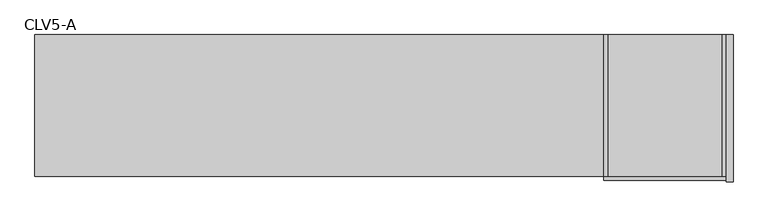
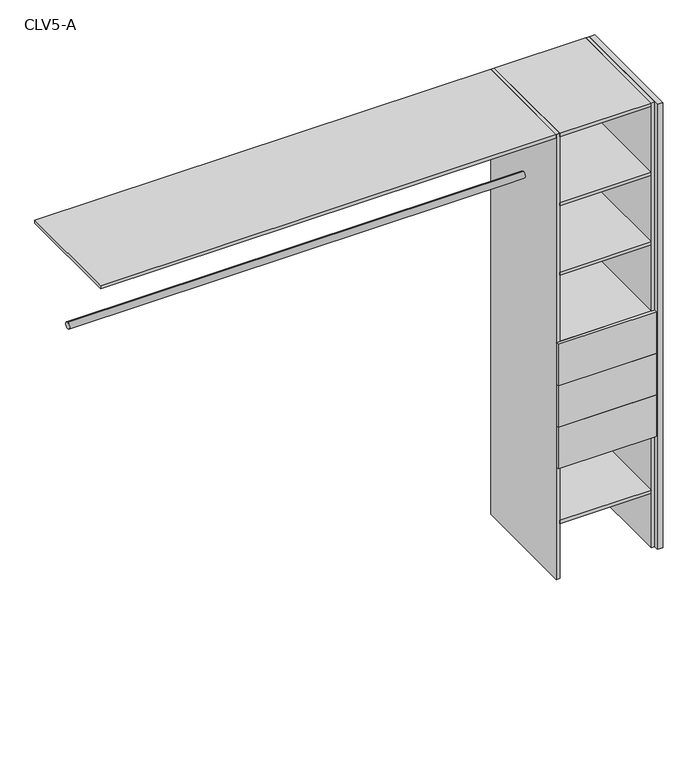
"""IFC4 building model written with IfcOpenShell, lengths in millimetres: furniture geometry, Closet 1estantes-1tubos_lateral estante : CLV5-A."""

import ifcopenshell
import ifcopenshell.guid

model = None  # the IFC model being written
_history = None  # IfcOwnerHistory: only IFC2X3 demands one
_inside = {}  # id of a spatial element -> (the spatial element, [elements in it])
_under = {}  # id of a project, library or spatial element -> (it, [spatial elements below it])
_declared = {}  # id of a project -> (the project, [libraries it declares])
_typed = {}  # id of a type object -> (the type object, [elements of that type])
_made_of = {}  # id of a material, layer set ... -> (it, [elements and type objects made of it])


def new_model(schema):
    """Start an empty IFC model of exactly this schema.

    Asked for "IFC4X3", IfcOpenShell would pick the latest addendum, in which some entities
    have other attributes; the version numbers below select the first issue.
    IFC2X3 requires an IfcOwnerHistory on every rooted entity: one is made here for all.
    """
    global model, _history
    if schema == "IFC4X3":
        model = ifcopenshell.file(schema_version=(4, 3, 0, 0))
    else:
        model = ifcopenshell.file(schema=schema)
    _inside.clear()
    _under.clear()
    _declared.clear()
    _typed.clear()
    _made_of.clear()
    _history = None
    if model.schema == "IFC2X3":
        org = make("IfcOrganization", Name="unknown")
        user = make(
            "IfcPersonAndOrganization",
            ThePerson=make("IfcPerson", FamilyName="unknown"),
            TheOrganization=org,
        )
        app = make(
            "IfcApplication",
            ApplicationDeveloper=org,
            Version="unknown",
            ApplicationFullName="unknown",
            ApplicationIdentifier="unknown",
        )
        _history = make(
            "IfcOwnerHistory",
            OwningUser=user,
            OwningApplication=app,
            ChangeAction="ADDED",
            CreationDate=0,
        )
    return model


def make(cls, **values):
    """One entity of the class cls with the attributes given. An attribute that is None is left unset."""
    return model.create_entity(
        cls, **{name: value for name, value in values.items() if value is not None}
    )


def rooted(cls, **values):
    """An entity with a GlobalId (a new one), such as an element, a storey or a relation."""
    return make(cls, GlobalId=ifcopenshell.guid.new(), OwnerHistory=_history, **values)


def si_unit(unit_type, name, prefix=None):
    """IfcSIUnit, for example si_unit("LENGTHUNIT", "METRE", prefix="MILLI")."""
    return make("IfcSIUnit", UnitType=unit_type, Prefix=prefix, Name=name)


def assignment(units):
    """IfcUnitAssignment: the units of a project."""
    return None if units is None else make("IfcUnitAssignment", Units=units)


def point(xyz):
    """IfcCartesianPoint."""
    return None if xyz is None else make("IfcCartesianPoint", Coordinates=xyz)


def direction(xyz):
    """IfcDirection."""
    return None if xyz is None else make("IfcDirection", DirectionRatios=xyz)


def frame(location, z_axis=None, x_axis=None):
    """IfcAxis2Placement3D, a coordinate frame: its origin and axes. An axis left out is left unset."""
    return make(
        "IfcAxis2Placement3D",
        Location=point(location),
        Axis=direction(z_axis),
        RefDirection=direction(x_axis),
    )


def frame_2d(location, x_axis=None):
    """IfcAxis2Placement2D, a coordinate frame in the plane: its origin and x axis."""
    return make(
        "IfcAxis2Placement2D", Location=point(location), RefDirection=direction(x_axis)
    )


def origin():
    """The frame at (0, 0, 0) with its axes left unset."""
    return frame((0.0, 0.0, 0.0))


def origin_with_axes():
    """The frame at (0, 0, 0) with the z axis (0, 0, 1) and the x axis (1, 0, 0) written out."""
    return frame((0.0, 0.0, 0.0), z_axis=(0.0, 0.0, 1.0), x_axis=(1.0, 0.0, 0.0))


def place(relative_to, where):
    """IfcLocalPlacement: puts the frame where relative to a parent placement (None: the world)."""
    return make(
        "IfcLocalPlacement", PlacementRelTo=relative_to, RelativePlacement=where
    )


def context(
    kind, dimensions, precision=None, world=None, true_north=None, identifier=None
):
    """IfcGeometricRepresentationContext, for example the 3D "Model" context."""
    return make(
        "IfcGeometricRepresentationContext",
        ContextIdentifier=identifier,
        ContextType=kind,
        CoordinateSpaceDimension=dimensions,
        Precision=precision,
        WorldCoordinateSystem=world,
        TrueNorth=true_north,
    )


def project(units=None, contexts=None):
    """IfcProject with its units and contexts."""
    return rooted(
        "IfcProject",
        Name="project",
        RepresentationContexts=contexts,
        UnitsInContext=assignment(units),
    )


def spatial(cls, under=None, at=None, **own):
    """A site, building, storey or space (cls), placed at a placement, below another one or the project."""
    s = rooted(cls, ObjectPlacement=at, **own)
    if under is not None:
        _under.setdefault(under.id(), (under, []))[1].append(s)
    return s


def polyline(points):
    """IfcPolyline through the points."""
    return make("IfcPolyline", Points=[point(p) for p in points])


def circle_curve(where, radius):
    """IfcCircle in the frame where."""
    return make("IfcCircle", Position=where, Radius=radius)


def trimmed(basis, trim1, trim2, sense, master):
    """IfcTrimmedCurve: the piece of a basis curve between two trims."""
    return make(
        "IfcTrimmedCurve",
        BasisCurve=basis,
        Trim1=trim1,
        Trim2=trim2,
        SenseAgreement=sense,
        MasterRepresentation=master,
    )


def segment(curve, same_sense, transition):
    """IfcCompositeCurveSegment."""
    return make(
        "IfcCompositeCurveSegment",
        Transition=transition,
        SameSense=same_sense,
        ParentCurve=curve,
    )


def composite_curve(segments, self_intersect=None):
    """IfcCompositeCurve: segments joined end to end."""
    return make("IfcCompositeCurve", Segments=segments, SelfIntersect=self_intersect)


def outline(outer, holes=None, kind="AREA"):
    """IfcArbitraryClosedProfileDef: a profile drawn as a closed curve; with holes, ...WithVoids."""
    if holes is None:
        return make("IfcArbitraryClosedProfileDef", ProfileType=kind, OuterCurve=outer)
    return make(
        "IfcArbitraryProfileDefWithVoids",
        ProfileType=kind,
        OuterCurve=outer,
        InnerCurves=holes,
    )


def extrude(swept, where, along, depth):
    """IfcExtrudedAreaSolid: the profile swept, set in the frame where, extruded along a direction by depth."""
    return make(
        "IfcExtrudedAreaSolid",
        SweptArea=swept,
        Position=where,
        ExtrudedDirection=direction(along),
        Depth=depth,
    )


def shape(context_of_items, identifier, shape_type, items):
    """IfcShapeRepresentation: the items that make up one representation, for example the "Body"."""
    return make(
        "IfcShapeRepresentation",
        ContextOfItems=context_of_items,
        RepresentationIdentifier=identifier,
        RepresentationType=shape_type,
        Items=items,
    )


def source(mapping_origin, context_of_items, identifier, shape_type, items):
    """IfcRepresentationMap: a shape defined once, which mapped items show again and again."""
    return make(
        "IfcRepresentationMap",
        MappingOrigin=mapping_origin,
        MappedRepresentation=shape(context_of_items, identifier, shape_type, items),
    )


def transform(
    local_origin,
    x_axis=None,
    y_axis=None,
    z_axis=None,
    scale=None,
    scale2=None,
    scale3=None,
    uniform=True,
):
    """IfcCartesianTransformationOperator3D, or its non-uniform kind. x_axis, y_axis, z_axis: its Axis1, 2, 3."""
    if uniform:
        return make(
            "IfcCartesianTransformationOperator3D",
            Axis1=direction(x_axis),
            Axis2=direction(y_axis),
            LocalOrigin=point(local_origin),
            Scale=scale,
            Axis3=direction(z_axis),
        )
    return make(
        "IfcCartesianTransformationOperator3DnonUniform",
        Axis1=direction(x_axis),
        Axis2=direction(y_axis),
        LocalOrigin=point(local_origin),
        Scale=scale,
        Axis3=direction(z_axis),
        Scale2=scale2,
        Scale3=scale3,
    )


def mapped(mapping_source, mapping_target):
    """IfcMappedItem: shows the shape of a source again, moved by a transform."""
    return make(
        "IfcMappedItem", MappingSource=mapping_source, MappingTarget=mapping_target
    )


def made_of(thing, what):
    """Note that an element or type object is made of a material, layer set ...; save() writes the relation."""
    if what is not None:
        _made_of.setdefault(what.id(), (what, []))[1].append(thing)
    return thing


def element(
    cls,
    number,
    at=None,
    inside=None,
    cuts=None,
    type_object=None,
    material=None,
    context=None,
    identifier="Body",
    shape_type=None,
    held_by="IfcProductDefinitionShape",
    body=None,
    shapes=None,
    **own,
):
    """One element of the class cls, such as IfcWall. Its Tag is "e" and its number.

    at: its placement. inside: the storey or other place that contains it. cuts: it is an
    opening in that element (IfcRelVoidsElement). A single representation is given by context,
    identifier, shape_type and body (its items); several are given by shapes. held_by: the class
    of the entity that holds the representations. save() writes the other relations.
    """
    e = rooted(cls, Tag="e%d" % number, ObjectPlacement=at, **own)
    if body is not None:
        shapes = [shape(context, identifier, shape_type, body)]
    if shapes is not None:
        e.Representation = make(held_by, Representations=shapes)
    if inside is not None:
        _inside.setdefault(inside.id(), (inside, []))[1].append(e)
    if cuts is not None:
        rooted(
            "IfcRelVoidsElement", RelatingBuildingElement=cuts, RelatedOpeningElement=e
        )
    if type_object is not None:
        _typed.setdefault(type_object.id(), (type_object, []))[1].append(e)
    return made_of(e, material)


def aggregate(whole, parts):
    """IfcRelAggregates: a whole, such as a stair, and the parts it consists of."""
    return rooted("IfcRelAggregates", RelatingObject=whole, RelatedObjects=parts)


def save(model, path):
    """Write the relations noted so far, then the file.

    IfcRelAggregates (storeys below a building ...), IfcRelContainedInSpatialStructure (elements
    in a storey), IfcRelDefinesByType, IfcRelAssociatesMaterial and IfcRelDeclares: one each for
    every whole, place, type object, material and project.
    """
    for whole, parts in _under.values():
        aggregate(whole, parts)
    for where, things in _inside.values():
        rooted(
            "IfcRelContainedInSpatialStructure",
            RelatedElements=things,
            RelatingStructure=where,
        )
    for kind, things in _typed.values():
        rooted("IfcRelDefinesByType", RelatedObjects=things, RelatingType=kind)
    for what, things in _made_of.values():
        rooted("IfcRelAssociatesMaterial", RelatedObjects=things, RelatingMaterial=what)
    for by, libraries in _declared.values():
        rooted("IfcRelDeclares", RelatingContext=by, RelatedDefinitions=libraries)
    model.write(path)


def clv5_a_722d1e37(model_context):
    return source(origin(), model_context, "Body", "SweptSolid", [
        extrude(outline(polyline([(250.0, 60.0), (225.0, 60.0), (225.0, 600.0), (250.0, 600.0), (250.0, 60.0)])), origin_with_axes(), (0.0, 0.0, 1.0), 2150.0),
        extrude(outline(polyline([(225.0, 80.0), (210.0, 80.0), (210.0, 600.0), (225.0, 600.0), (225.0, 80.0)])), origin_with_axes(), (0.0, 0.0, 1.0), 2150.0),
        extrude(outline(polyline([(-210.0, 80.0), (-225.0, 80.0), (-225.0, 600.0), (-210.0, 600.0), (-210.0, 80.0)])), origin_with_axes(), (0.0, 0.0, 1.0), 2150.0),
        extrude(outline(polyline([(225.0, 80.0), (225.0, 65.0), (-225.0, 65.0), (-225.0, 80.0), (225.0, 80.0)])), frame((0.0, 0.0, 945.0), z_axis=(0.0, 0.0, 1.0), x_axis=(1.0, 0.0, 0.0)), (0.0, 0.0, 1.0), 200.0),
        extrude(outline(polyline([(225.0, 80.0), (225.0, 65.0), (-225.0, 65.0), (-225.0, 80.0), (225.0, 80.0)])), frame((0.0, 0.0, 745.0), z_axis=(0.0, 0.0, 1.0), x_axis=(1.0, 0.0, 0.0)), (0.0, 0.0, 1.0), 200.0),
        extrude(outline(polyline([(225.0, 80.0), (225.0, 65.0), (-225.0, 65.0), (-225.0, 80.0), (225.0, 80.0)])), frame((0.0, 0.0, 545.0), z_axis=(0.0, 0.0, 1.0), x_axis=(1.0, 0.0, 0.0)), (0.0, 0.0, 1.0), 200.0),
        extrude(outline(polyline([(210.0, 80.0), (-210.0, 80.0), (-210.0, 600.0), (210.0, 600.0), (210.0, 80.0)])), frame((0.0, 0.0, 1130.0), z_axis=(0.0, 0.0, 1.0), x_axis=(1.0, 0.0, 0.0)), (0.0, 0.0, 1.0), 15.0),
        extrude(outline(composite_curve([segment(trimmed(circle_curve(frame_2d((340.0, 1800.0)), 15.0), [point((340.0, 1815.0))], [point((340.0, 1785.0))], False, "CARTESIAN"), True, "CONTINUOUS"), segment(trimmed(circle_curve(frame_2d((340.0, 1800.0)), 15.0), [point((340.0, 1785.0))], [point((340.0, 1815.0))], False, "CARTESIAN"), True, "CONTINUOUS")], self_intersect=False)), frame((-2310.0, 0.0, 0.0), z_axis=(1.0, 0.0, 0.0), x_axis=(0.0, 1.0, 0.0)), (0.0, 0.0, 1.0), 2085.0),
        extrude(outline(composite_curve([segment(trimmed(circle_curve(frame_2d((340.0, 1800.0)), 15.0), [point((340.0, 1815.0))], [point((340.0, 1785.0))], False, "CARTESIAN"), True, "CONTINUOUS"), segment(trimmed(circle_curve(frame_2d((340.0, 1800.0)), 15.0), [point((340.0, 1785.0))], [point((340.0, 1815.0))], False, "CARTESIAN"), True, "CONTINUOUS")], self_intersect=False)), frame((-2310.0, 0.0, 0.0), z_axis=(1.0, 0.0, 0.0), x_axis=(0.0, 1.0, 0.0)), (0.0, 0.0, 1.0), 2085.0),
        extrude(outline(polyline([(210.0, 80.0), (-210.0, 80.0), (-210.0, 600.0), (210.0, 600.0), (210.0, 80.0)])), frame((0.0, 0.0, 265.0), z_axis=(0.0, 0.0, 1.0), x_axis=(1.0, 0.0, 0.0)), (0.0, 0.0, 1.0), 15.0),
        extrude(outline(polyline([(210.0, 80.0), (-210.0, 80.0), (-210.0, 600.0), (210.0, 600.0), (210.0, 80.0)])), frame((0.0, 0.0, 545.0), z_axis=(0.0, 0.0, 1.0), x_axis=(1.0, 0.0, 0.0)), (0.0, 0.0, 1.0), 15.0),
        extrude(outline(polyline([(210.0, 80.0), (-210.0, 80.0), (-210.0, 600.0), (210.0, 600.0), (210.0, 80.0)])), frame((0.0, 0.0, 1465.0), z_axis=(0.0, 0.0, 1.0), x_axis=(1.0, 0.0, 0.0)), (0.0, 0.0, 1.0), 15.0),
        extrude(outline(polyline([(210.0, 80.0), (-210.0, 80.0), (-210.0, 600.0), (210.0, 600.0), (210.0, 80.0)])), frame((0.0, 0.0, 1800.0), z_axis=(0.0, 0.0, 1.0), x_axis=(1.0, 0.0, 0.0)), (0.0, 0.0, 1.0), 15.0),
        extrude(outline(polyline([(-210.0, 80.0), (-2310.0, 80.0), (-2310.0, 600.0), (-210.0, 600.0), (-210.0, 80.0)])), frame((0.0, 0.0, 2135.0), z_axis=(0.0, 0.0, 1.0), x_axis=(1.0, 0.0, 0.0)), (0.0, 0.0, 1.0), 15.0),
        extrude(outline(polyline([(210.0, 80.0), (-210.0, 80.0), (-210.0, 600.0), (210.0, 600.0), (210.0, 80.0)])), frame((0.0, 0.0, 2135.0), z_axis=(0.0, 0.0, 1.0), x_axis=(1.0, 0.0, 0.0)), (0.0, 0.0, 1.0), 15.0),
    ])


if __name__ == "__main__":
    model = new_model("IFC4")
    model_context = context("Model", 3, world=origin())
    ifc_project = project(units=[si_unit("LENGTHUNIT", "METRE", prefix="MILLI")], contexts=[model_context])
    site = spatial("IfcSite", under=ifc_project)
    building = spatial("IfcBuilding", under=site)
    placement = place(None, origin())
    clv5_a_shape = clv5_a_722d1e37(model_context)
    element("IfcFurniture", 1, ObjectType="Closet 1estantes-1tubos_lateral estante : CLV5-A", at=placement, inside=building, context=model_context, shape_type="MappedRepresentation", body=[
        mapped(clv5_a_shape, transform((0.0, 0.0, 0.0), x_axis=(1.0, 0.0, 0.0), y_axis=(0.0, 1.0, 0.0), z_axis=(0.0, 0.0, 1.0))),
    ])
    save(model, "model.ifc")
